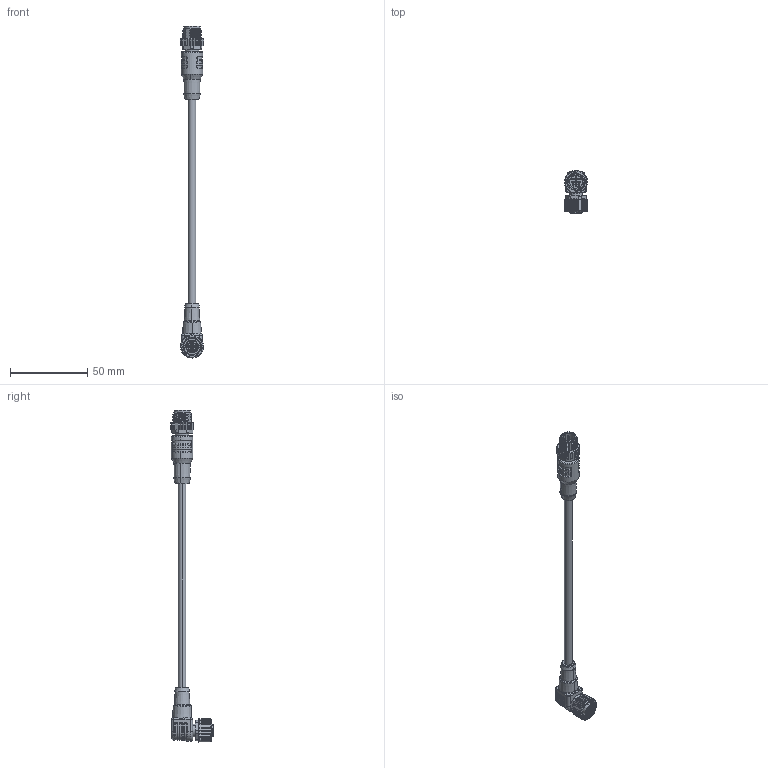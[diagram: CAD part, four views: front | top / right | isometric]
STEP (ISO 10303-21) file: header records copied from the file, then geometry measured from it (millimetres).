
FILE_DESCRIPTION (( 'STEP AP203' ), '1' );
FILE_NAME ('64D301-XXX.STEP', '2024-12-06T07:26:18', ( 'L' ), ( '' ), 'SwSTEP 2.0', 'SolidWorks 2019', '' );
FILE_SCHEMA (( 'CONFIG_CONTROL_DESIGN' ));
Products named in the file (1): 64D301-XXX
Bounding box: 15 x 27.8 x 215.34 mm (x, y, z)
Volume: 12956 mm3; surface area: 9570.3 mm2
Topology: 1 solids, 1 shells, 1503 faces, 4236 edges, 2791 vertices
Faces by surface type: plane 691, cylinder 411, bspline 198, cone 130, torus 73
Entity records: 78633 total; most frequent: CARTESIAN_POINT 43690, ORIENTED_EDGE 8470, DIRECTION 5537, EDGE_CURVE 4235, VERTEX_POINT 2791, AXIS2_PLACEMENT_3D 1971, B_SPLINE_CURVE_WITH_KNOTS 1901, VECTOR 1595
